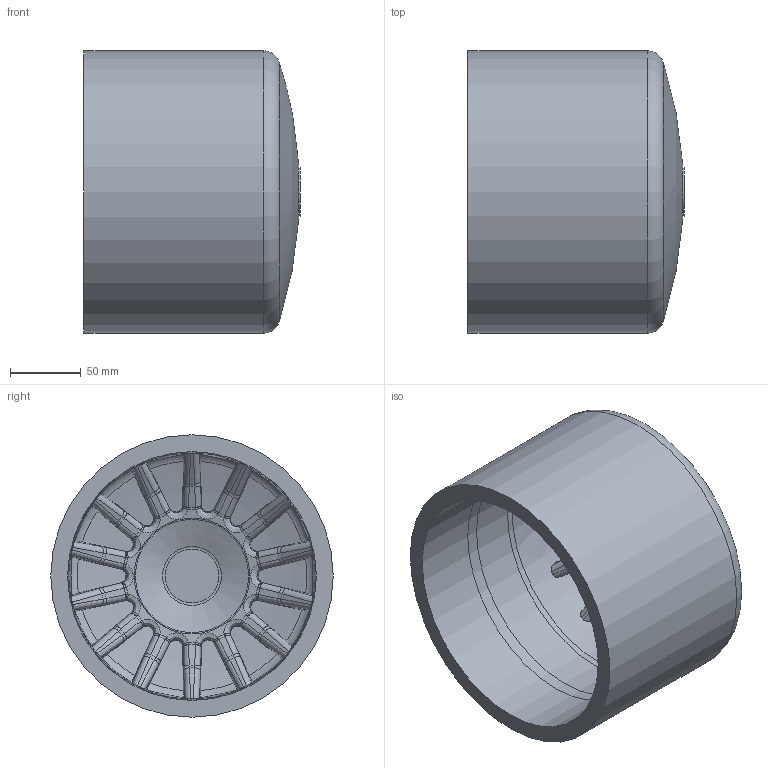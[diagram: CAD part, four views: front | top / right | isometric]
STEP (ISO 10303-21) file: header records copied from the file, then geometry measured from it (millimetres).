
FILE_DESCRIPTION(/* description */ ('Unknown'),/* implementation_level */ '2;1');
FILE_NAME(/* name */ 'CAP200B',/* time_stamp */ '2022-04-02T09:35:30+02:00',/* author */ ('Unknown'),/* organization */ ('Unknown'),/* preprocessor_version */ 'ST-DEVELOPER v18.1',/* originating_system */ 'Solid Edge',/* authorisation */ 'Unknown');
FILE_SCHEMA (('AUTOMOTIVE_DESIGN {1 0 10303 214 3 1 1}'));
Length unit declared in the file: millimetre
Products named in the file (1): CAP200B
Bounding box: 153 x 200 x 200 mm (x, y, z)
Volume: 1390277.6 mm3; surface area: 222380.5 mm2
Topology: 1 solids, 1 shells, 297 faces, 731 edges, 438 vertices
Faces by surface type: bspline 154, torus 47, cone 32, plane 32, cylinder 17, sphere 15
Full cylindrical faces by diameter (mm): 34 x1, 176.2 x1, 200 x1
Entity records: 10392 total; most frequent: CARTESIAN_POINT 4584, ORIENTED_EDGE 1430, DIRECTION 934, EDGE_CURVE 715, AXIS2_PLACEMENT_3D 453, VERTEX_POINT 435, B_SPLINE_CURVE_WITH_KNOTS 378, EDGE_LOOP 312
